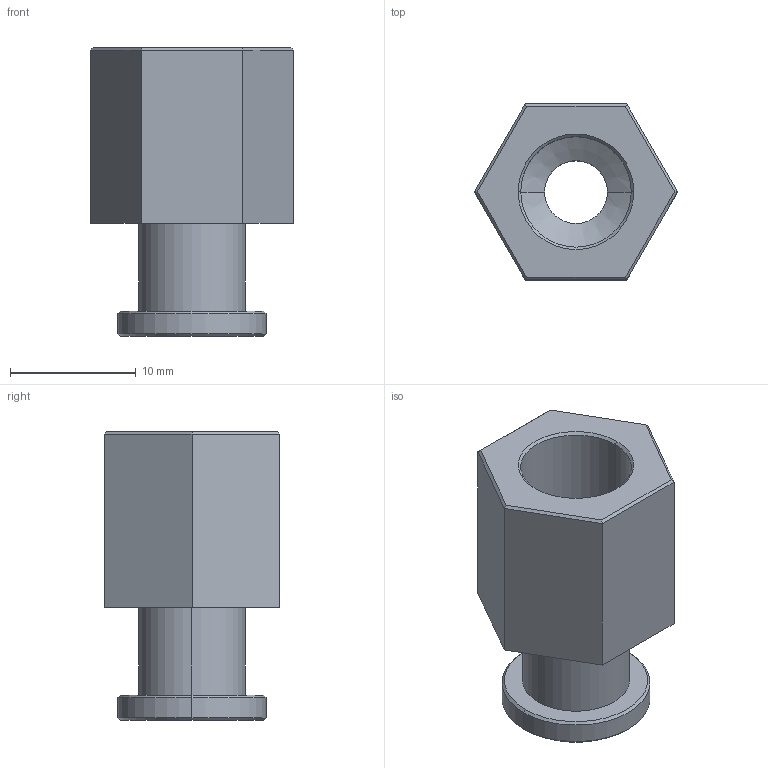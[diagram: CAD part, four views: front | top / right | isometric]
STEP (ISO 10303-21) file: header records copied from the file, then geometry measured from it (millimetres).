
FILE_DESCRIPTION (( 'STEP AP214' ), '1' );
FILE_NAME ('VM10-G18-F.STEP', '2023-03-07T09:19:09', ( 'Windows User' ), ( 'P R C' ), 'SwSTEP 2.0', 'SolidWorks 2019', '' );
FILE_SCHEMA (( 'AUTOMOTIVE_DESIGN' ));
Length unit declared in the file: millimetre
Products named in the file (1): VM10-G18-F
Bounding box: 16.17 x 14 x 23 mm (x, y, z)
Volume: 2104.2 mm3; surface area: 1795.6 mm2
Topology: 1 solids, 1 shells, 34 faces, 72 edges, 42 vertices
Faces by surface type: plane 16, cone 10, cylinder 8
Entity records: 956 total; most frequent: DIRECTION 166, CARTESIAN_POINT 149, ORIENTED_EDGE 144, EDGE_CURVE 72, AXIS2_PLACEMENT_3D 59, LINE 48, VECTOR 48, VERTEX_POINT 42
